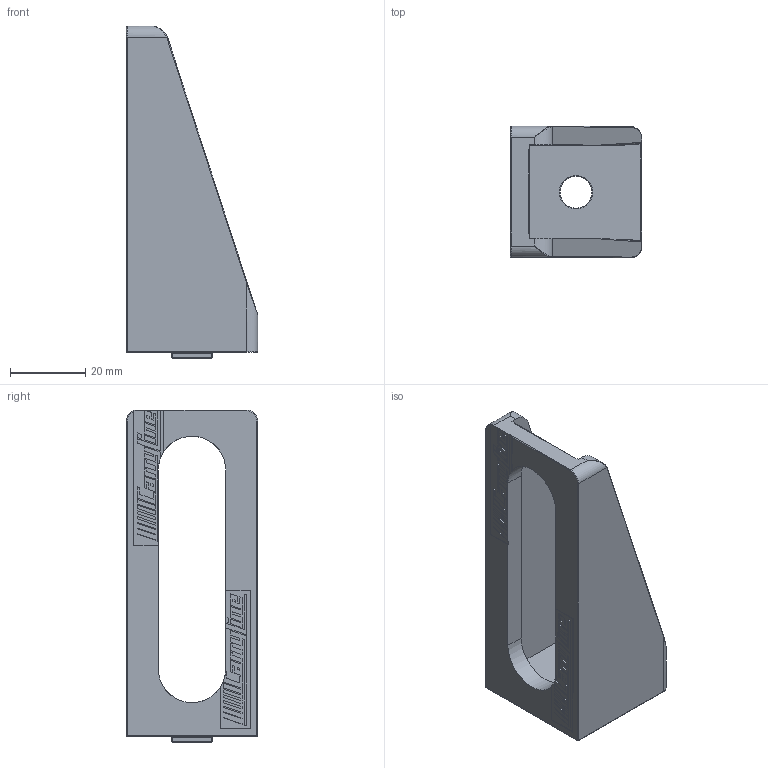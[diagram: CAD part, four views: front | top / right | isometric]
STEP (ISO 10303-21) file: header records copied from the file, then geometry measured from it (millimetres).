
FILE_DESCRIPTION(/* description */ ('ANGLE BRACKET 87 MM FOR PHOTOCELL'),/* implementation_level */ '2;1');
FILE_NAME(/* name */ 'X:\Magnus\Hemsidan\STEP filer\STEP-Carryline Standarddelar\Serie 300\300-2900.stp',/* time_stamp */ '2013-12-20T13:00:35+01:00',/* author */ ('Mathias'),/* organization */ ('CARRYLINE'),/* preprocessor_version */ 'ST-DEVELOPER v15.2',/* originating_system */ 'Autodesk Inventor 2014',/* authorisation */ '');
FILE_SCHEMA (('AUTOMOTIVE_DESIGN { 1 0 10303 214 3 1 1 }'));
Length unit declared in the file: millimetre
Products named in the file (1): 300-2900
Bounding box: 35 x 35 x 88.5 mm (x, y, z)
Volume: 30055.2 mm3; surface area: 13859 mm2
Topology: 1 solids, 1 shells, 350 faces, 898 edges, 571 vertices
Faces by surface type: plane 278, cylinder 42, torus 12, bspline 10, sphere 8
Full cylindrical faces by diameter (mm): 8.5 x1
Entity records: 10638 total; most frequent: CARTESIAN_POINT 2149, ORIENTED_EDGE 1764, DIRECTION 1670, EDGE_CURVE 882, LINE 762, VECTOR 762, VERTEX_POINT 570, AXIS2_PLACEMENT_3D 454
